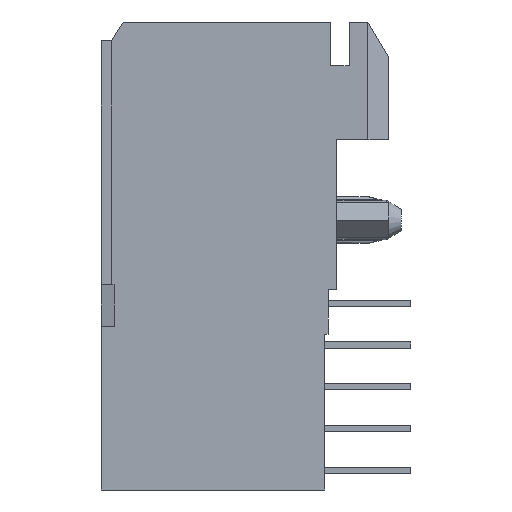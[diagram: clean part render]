
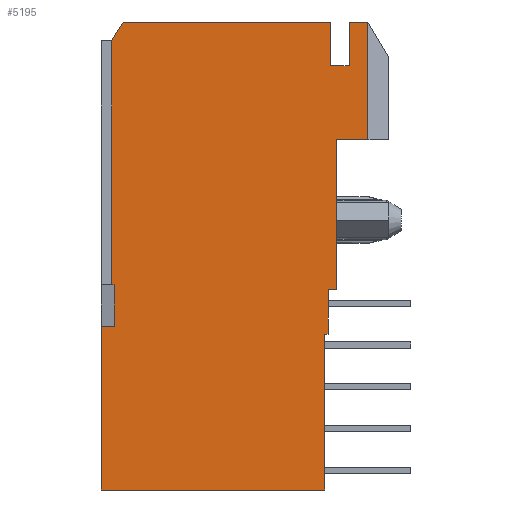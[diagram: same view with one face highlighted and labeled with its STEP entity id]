
A CAD part, left-side view. The second image highlights one B-rep face of the part: STEP entity #5195.
In plain terms, the highlighted planar face has unit normal (-1, 0, 0).
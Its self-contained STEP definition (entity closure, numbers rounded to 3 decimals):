
#2=DIRECTION('',(0.,1.,0.));
#3=VECTOR('',#2,0.17);
#4=CARTESIAN_POINT('',(-5.94,0.41,-14.97));
#5=LINE('',#4,#3);
#6=DIRECTION('',(0.,0.,-1.));
#7=VECTOR('',#6,7.48);
#8=CARTESIAN_POINT('',(-5.94,0.58,-14.97));
#9=LINE('',#8,#7);
#10=DIRECTION('',(0.,1.,0.));
#11=VECTOR('',#10,10.72);
#12=CARTESIAN_POINT('',(-5.94,0.58,-22.45));
#13=LINE('',#12,#11);
#14=DIRECTION('',(0.,0.,1.));
#15=VECTOR('',#14,7.85);
#16=CARTESIAN_POINT('',(-5.94,11.3,-22.45));
#17=LINE('',#16,#15);
#18=DIRECTION('',(0.,-1.,0.));
#19=VECTOR('',#18,0.64);
#20=CARTESIAN_POINT('',(-5.94,11.3,-14.6));
#21=LINE('',#20,#19);
#22=DIRECTION('',(0.,0.,-1.));
#23=VECTOR('',#22,2.);
#24=CARTESIAN_POINT('',(-5.94,10.66,-12.6));
#25=LINE('',#24,#23);
#26=DIRECTION('',(0.,-1.,0.));
#27=VECTOR('',#26,0.14);
#28=CARTESIAN_POINT('',(-5.94,10.8,-12.6));
#29=LINE('',#28,#27);
#30=DIRECTION('',(0.,0.,1.));
#31=VECTOR('',#30,11.7);
#32=CARTESIAN_POINT('',(-5.94,10.8,-12.6));
#33=LINE('',#32,#31);
#34=DIRECTION('',(0.,-0.521,0.853));
#35=VECTOR('',#34,1.055);
#36=CARTESIAN_POINT('',(-5.94,10.8,-0.9));
#37=LINE('',#36,#35);
#38=DIRECTION('',(0.,-1.,0.));
#39=VECTOR('',#38,9.95);
#40=CARTESIAN_POINT('',(-5.94,10.25,0.));
#41=LINE('',#40,#39);
#42=DIRECTION('',(0.,0.,-1.));
#43=VECTOR('',#42,2.1);
#44=CARTESIAN_POINT('',(-5.94,0.3,0.));
#45=LINE('',#44,#43);
#46=DIRECTION('',(0.,-1.,0.));
#47=VECTOR('',#46,0.9);
#48=CARTESIAN_POINT('',(-5.94,0.3,-2.1));
#49=LINE('',#48,#47);
#50=DIRECTION('',(0.,0.,1.));
#51=VECTOR('',#50,2.1);
#52=CARTESIAN_POINT('',(-5.94,-0.6,-2.1));
#53=LINE('',#52,#51);
#54=DIRECTION('',(0.,-1.,0.));
#55=VECTOR('',#54,0.9);
#56=CARTESIAN_POINT('',(-5.94,-0.6,0.));
#57=LINE('',#56,#55);
#58=DIRECTION('',(0.,0.,1.));
#59=VECTOR('',#58,5.64);
#60=CARTESIAN_POINT('',(-5.94,-1.5,-5.64));
#61=LINE('',#60,#59);
#62=DIRECTION('',(0.,1.,0.));
#63=VECTOR('',#62,1.5);
#64=CARTESIAN_POINT('',(-5.94,-1.5,-5.64));
#65=LINE('',#64,#63);
#66=DIRECTION('',(0.,0.,-1.));
#67=VECTOR('',#66,7.21);
#68=CARTESIAN_POINT('',(-5.94,0.,-5.64));
#69=LINE('',#68,#67);
#70=DIRECTION('',(0.,1.,0.));
#71=VECTOR('',#70,0.41);
#72=CARTESIAN_POINT('',(-5.94,0.,-12.85));
#73=LINE('',#72,#71);
#74=DIRECTION('',(0.,0.,-1.));
#75=VECTOR('',#74,2.12);
#76=CARTESIAN_POINT('',(-5.94,0.41,-12.85));
#77=LINE('',#76,#75);
#3974=CARTESIAN_POINT('',(-5.94,10.25,0.));
#3975=CARTESIAN_POINT('',(-5.94,0.3,0.));
#3976=VERTEX_POINT('',#3974);
#3977=VERTEX_POINT('',#3975);
#3978=CARTESIAN_POINT('',(-5.94,0.,-5.64));
#3979=CARTESIAN_POINT('',(-5.94,0.,-12.85));
#3980=VERTEX_POINT('',#3978);
#3981=VERTEX_POINT('',#3979);
#3982=CARTESIAN_POINT('',(-5.94,0.41,-12.85));
#3983=VERTEX_POINT('',#3982);
#3984=CARTESIAN_POINT('',(-5.94,0.41,-14.97));
#3985=VERTEX_POINT('',#3984);
#3986=CARTESIAN_POINT('',(-5.94,10.8,-0.9));
#3987=VERTEX_POINT('',#3986);
#4002=CARTESIAN_POINT('',(-5.94,11.3,-22.45));
#4004=VERTEX_POINT('',#4002);
#4022=CARTESIAN_POINT('',(-5.94,10.66,-12.6));
#4023=CARTESIAN_POINT('',(-5.94,10.66,-14.6));
#4024=VERTEX_POINT('',#4022);
#4025=VERTEX_POINT('',#4023);
#4026=CARTESIAN_POINT('',(-5.94,10.8,-12.6));
#4027=VERTEX_POINT('',#4026);
#4028=CARTESIAN_POINT('',(-5.94,11.3,-14.6));
#4029=VERTEX_POINT('',#4028);
#4046=CARTESIAN_POINT('',(-5.94,0.3,-2.1));
#4047=VERTEX_POINT('',#4046);
#4048=CARTESIAN_POINT('',(-5.94,-0.6,-2.1));
#4049=VERTEX_POINT('',#4048);
#4050=CARTESIAN_POINT('',(-5.94,-0.6,0.));
#4051=VERTEX_POINT('',#4050);
#5126=CARTESIAN_POINT('',(-5.94,-1.5,0.));
#5128=VERTEX_POINT('',#5126);
#5132=CARTESIAN_POINT('',(-5.94,-1.5,-5.64));
#5133=VERTEX_POINT('',#5132);
#5142=CARTESIAN_POINT('',(-5.94,0.58,-22.45));
#5144=VERTEX_POINT('',#5142);
#5146=CARTESIAN_POINT('',(-5.94,0.58,-14.97));
#5148=VERTEX_POINT('',#5146);
#5150=CARTESIAN_POINT('',(-5.94,0.,0.));
#5151=DIRECTION('',(1.,0.,0.));
#5152=DIRECTION('',(0.,0.,-1.));
#5153=AXIS2_PLACEMENT_3D('',#5150,#5151,#5152);
#5154=PLANE('',#5153);
#5156=ORIENTED_EDGE('',*,*,#5155,.T.);
#5158=ORIENTED_EDGE('',*,*,#5157,.T.);
#5160=ORIENTED_EDGE('',*,*,#5159,.T.);
#5162=ORIENTED_EDGE('',*,*,#5161,.T.);
#5164=ORIENTED_EDGE('',*,*,#5163,.T.);
#5166=ORIENTED_EDGE('',*,*,#5165,.F.);
#5168=ORIENTED_EDGE('',*,*,#5167,.F.);
#5170=ORIENTED_EDGE('',*,*,#5169,.T.);
#5172=ORIENTED_EDGE('',*,*,#5171,.T.);
#5174=ORIENTED_EDGE('',*,*,#5173,.T.);
#5176=ORIENTED_EDGE('',*,*,#5175,.T.);
#5178=ORIENTED_EDGE('',*,*,#5177,.T.);
#5180=ORIENTED_EDGE('',*,*,#5179,.T.);
#5182=ORIENTED_EDGE('',*,*,#5181,.T.);
#5184=ORIENTED_EDGE('',*,*,#5183,.F.);
#5186=ORIENTED_EDGE('',*,*,#5185,.T.);
#5188=ORIENTED_EDGE('',*,*,#5187,.T.);
#5190=ORIENTED_EDGE('',*,*,#5189,.T.);
#5192=ORIENTED_EDGE('',*,*,#5191,.T.);
#5193=EDGE_LOOP('',(#5156,#5158,#5160,#5162,#5164,#5166,#5168,#5170,#5172,#5174,
#5176,#5178,#5180,#5182,#5184,#5186,#5188,#5190,#5192));
#5194=FACE_OUTER_BOUND('',#5193,.F.);
#5155=EDGE_CURVE('',#3985,#5148,#5,.T.);
#5157=EDGE_CURVE('',#5148,#5144,#9,.T.);
#5159=EDGE_CURVE('',#5144,#4004,#13,.T.);
#5161=EDGE_CURVE('',#4004,#4029,#17,.T.);
#5163=EDGE_CURVE('',#4029,#4025,#21,.T.);
#5165=EDGE_CURVE('',#4024,#4025,#25,.T.);
#5167=EDGE_CURVE('',#4027,#4024,#29,.T.);
#5169=EDGE_CURVE('',#4027,#3987,#33,.T.);
#5171=EDGE_CURVE('',#3987,#3976,#37,.T.);
#5173=EDGE_CURVE('',#3976,#3977,#41,.T.);
#5175=EDGE_CURVE('',#3977,#4047,#45,.T.);
#5177=EDGE_CURVE('',#4047,#4049,#49,.T.);
#5179=EDGE_CURVE('',#4049,#4051,#53,.T.);
#5181=EDGE_CURVE('',#4051,#5128,#57,.T.);
#5183=EDGE_CURVE('',#5133,#5128,#61,.T.);
#5185=EDGE_CURVE('',#5133,#3980,#65,.T.);
#5187=EDGE_CURVE('',#3980,#3981,#69,.T.);
#5189=EDGE_CURVE('',#3981,#3983,#73,.T.);
#5191=EDGE_CURVE('',#3983,#3985,#77,.T.);
#5195=ADVANCED_FACE('',(#5194),#5154,.F.);
